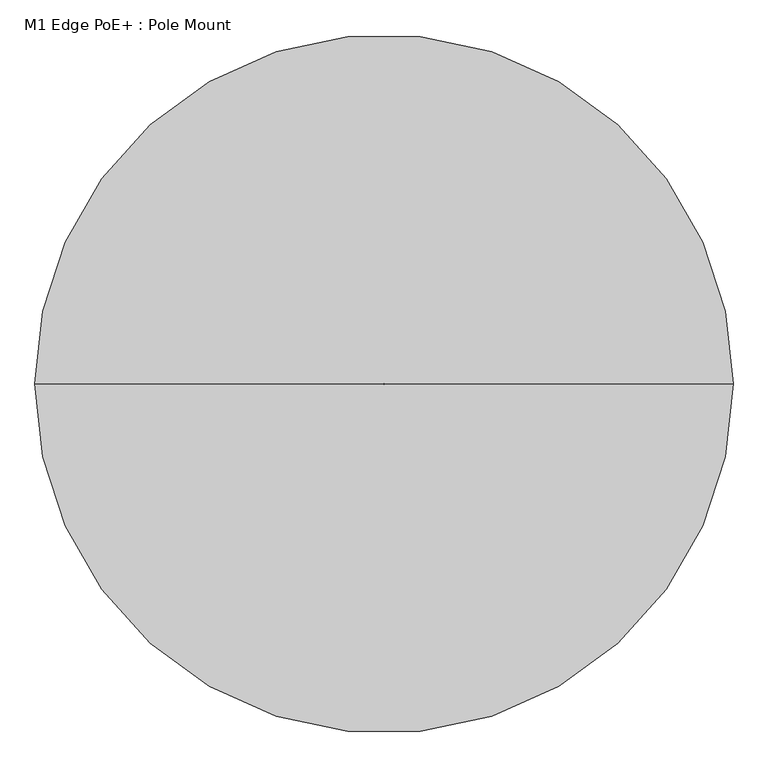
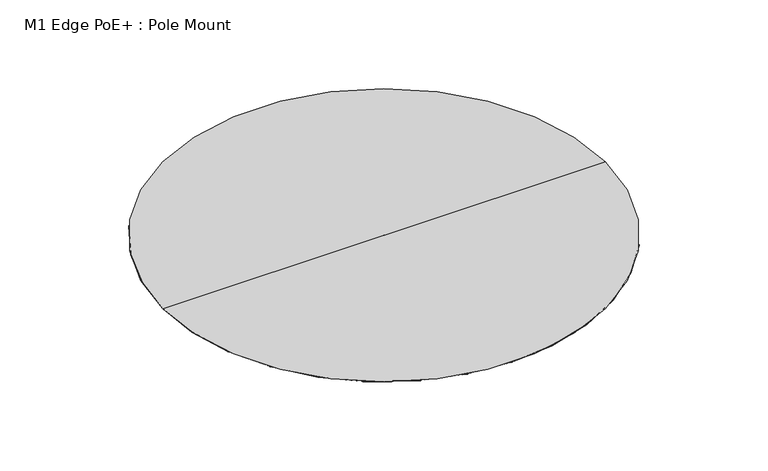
"""IFC4 building model written with IfcOpenShell, lengths in millimetres: proxy geometry, M1 Edge PoE+ : Pole Mount."""

from ifc_helpers import new_model, si_unit, frame, origin, place, context, project, spatial, polyline, circle_curve, outline, extrude, source, transform, mapped, element, save
from ifc_brep_helpers import plane_surface, cylinder_surface, revolved_surface, advanced_brep


def m1_edge_poe_pole_mount_3354eebb(model_context):
    return source(origin(), model_context, "Body", "SolidModel", [
        extrude(outline(polyline([(38.05, -3.175), (18.2643499, -29.4314445), (17.2785871, -29.4314445), (30.6046653, -6.35), (0.0, -6.35), (-30.6046653, -6.35), (-17.2785871, -29.4314445), (-18.2643499, -29.4314445), (-38.05, -3.175), (38.05, -3.175)])), frame((0.0, 0.0, 2917.49375), z_axis=(0.0, 0.0, 1.0), x_axis=(1.0, 0.0, 0.0)), (0.0, 0.0, 1.0), 100.0125),
        advanced_brep(
        [(0.0, 28.675, 3063.03192), (0.0, 117.675, 3063.03192), (0.0, 117.675, 3127.0834825), (0.0, 28.675, 3127.0834825), (0.0, 25.175, 3063.03192), (0.0, 121.175, 3063.03192), (0.0, 25.175, 3053.0108263), (0.0, 121.175, 3053.0108263), (0.0, 15.675, 3053.0108263), (0.0, 130.675, 3053.0108263), (0.0, 15.675, 2992.9834825), (0.0, 130.675, 2992.9834825), (0.0, 73.175, 2992.9834825), (0.0, 73.175, 3127.0834825)],
        [
            (0, 1, circle_curve(frame((0.0, 73.175, 3063.03192), z_axis=(0.0, 0.0, 1.0), x_axis=(0.0, 1.0, 0.0)), 44.5)),
            (1, 2),
            (2, 3, circle_curve(frame((0.0, 73.175, 3127.0834825), z_axis=(0.0, 0.0, -1.0), x_axis=(0.0, 1.0, 0.0)), 44.5)),
            (3, 0),
            (1, 0, circle_curve(frame((0.0, 73.175, 3063.03192), z_axis=(0.0, 0.0, 1.0), x_axis=(0.0, 1.0, 0.0)), 44.5)),
            (3, 2, circle_curve(frame((0.0, 73.175, 3127.0834825), z_axis=(0.0, 0.0, -1.0), x_axis=(0.0, 1.0, 0.0)), 44.5)),
            (4, 5, circle_curve(frame((0.0, 73.175, 3063.03192), z_axis=(0.0, 0.0, 1.0), x_axis=(0.0, 1.0, 0.0)), 48.0)),
            (5, 1),
            (0, 4),
            (5, 4, circle_curve(frame((0.0, 73.175, 3063.03192), z_axis=(0.0, 0.0, 1.0), x_axis=(0.0, 1.0, 0.0)), 48.0)),
            (6, 7, circle_curve(frame((0.0, 73.175, 3053.0108263), z_axis=(0.0, 0.0, 1.0), x_axis=(0.0, 1.0, 0.0)), 48.0)),
            (7, 5),
            (4, 6),
            (7, 6, circle_curve(frame((0.0, 73.175, 3053.0108263), z_axis=(0.0, 0.0, 1.0), x_axis=(0.0, 1.0, 0.0)), 48.0)),
            (8, 9, circle_curve(frame((0.0, 73.175, 3053.0108263), z_axis=(0.0, 0.0, 1.0), x_axis=(0.0, 1.0, 0.0)), 57.5)),
            (9, 7),
            (6, 8),
            (9, 8, circle_curve(frame((0.0, 73.175, 3053.0108263), z_axis=(0.0, 0.0, 1.0), x_axis=(0.0, 1.0, 0.0)), 57.5)),
            (10, 11, circle_curve(frame((0.0, 73.175, 2992.9834825), z_axis=(0.0, 0.0, 1.0), x_axis=(0.0, 1.0, 0.0)), 57.5)),
            (11, 9),
            (8, 10),
            (11, 10, circle_curve(frame((0.0, 73.175, 2992.9834825), z_axis=(0.0, 0.0, 1.0), x_axis=(0.0, 1.0, 0.0)), 57.5)),
            (12, 11),
            (10, 12),
            (2, 13),
            (13, 3),
        ],
        [
            cylinder_surface(frame((0.0, 73.175, 3394.9634398), z_axis=(0.0, 0.0, -1.0), x_axis=(0.0, 1.0, 0.0)), 44.5),
            plane_surface(frame((0.0, 73.175, 3063.03192), z_axis=(0.0, 0.0, 1.0), x_axis=(0.0, 1.0, 0.0))),
            cylinder_surface(frame((0.0, 73.175, 3394.9634398), z_axis=(0.0, 0.0, -1.0), x_axis=(0.0, 1.0, 0.0)), 48.0),
            plane_surface(frame((0.0, 73.175, 3053.0108263), z_axis=(0.0, 0.0, 1.0), x_axis=(0.0, 1.0, 0.0))),
            cylinder_surface(frame((0.0, 73.175, 3394.9634398), z_axis=(0.0, 0.0, -1.0), x_axis=(0.0, 1.0, 0.0)), 57.5),
            plane_surface(frame((0.0, 73.175, 2992.9834825), z_axis=(0.0, 0.0, -1.0), x_axis=(0.0, 1.0, 0.0))),
            plane_surface(frame((0.0, 73.175, 3127.0834825), z_axis=(0.0, 0.0, 1.0), x_axis=(0.0, 1.0, 0.0))),
        ],
        [
            (0, [[1, 2, 3, 4]]),
            (0, [[5, -4, 6, -2]]),
            (1, [[7, 8, -1, 9]]),
            (1, [[10, -9, -5, -8]]),
            (2, [[11, 12, -7, 13]]),
            (2, [[14, -13, -10, -12]]),
            (3, [[15, 16, -11, 17]]),
            (3, [[18, -17, -14, -16]]),
            (4, [[19, 20, -15, 21]]),
            (4, [[22, -21, -18, -20]]),
            (5, [[23, -19, 24]]),
            (5, [[-24, -22, -23]]),
            (6, [[-3, 25, 26]]),
            (6, [[-6, -26, -25]]),
        ],
    ),
        advanced_brep(
        [(70104.0, 73.175, 3091.60692), (-70104.0, 73.175, 3091.60692), (-46.2980768, 73.175, 3091.60692), (46.2980768, 73.175, 3091.60692), (70104.0, 73.175, 3011.8911911), (-70104.0, 73.175, 3011.8911911)],
        [
            (0, 1, circle_curve(frame((0.0, 73.175, 3091.60692), z_axis=(0.0, 0.0, 1.0), x_axis=(-1.0, 0.0, 0.0)), 70104.0)),
            (1, 2),
            (2, 3, circle_curve(frame((0.0, 73.175, 3091.60692), z_axis=(0.0, 0.0, -1.0), x_axis=(-1.0, 0.0, 0.0)), 46.2980768)),
            (3, 0),
            (1, 0, circle_curve(frame((0.0, 73.175, 3091.60692), z_axis=(0.0, 0.0, 1.0), x_axis=(-1.0, 0.0, 0.0)), 70104.0)),
            (3, 2, circle_curve(frame((0.0, 73.175, 3091.60692), z_axis=(0.0, 0.0, -1.0), x_axis=(-1.0, 0.0, 0.0)), 46.2980768)),
            (4, 5, circle_curve(frame((0.0, 73.175, 3011.8911911), z_axis=(0.0, 0.0, 1.0), x_axis=(-1.0, 0.0, 0.0)), 70104.0)),
            (5, 1),
            (0, 4),
            (5, 4, circle_curve(frame((0.0, 73.175, 3011.8911911), z_axis=(0.0, 0.0, 1.0), x_axis=(-1.0, 0.0, 0.0)), 70104.0)),
            (2, 5),
            (4, 3),
        ],
        [
            plane_surface(frame((0.0, 73.175, 3091.60692), z_axis=(0.0, 0.0, 1.0), x_axis=(-1.0, 0.0, 0.0))),
            cylinder_surface(frame((0.0, 73.175, 5435.4137144), z_axis=(0.0, 0.0, -1.0), x_axis=(-1.0, 0.0, 0.0)), 70104.0),
            revolved_surface(polyline([(-70104.0, 73.175, 3011.8911911), (-46.2980768, 73.175, 3091.60692)]), (0.0, 73.175, 5435.4137144), (0.0, 0.0, -1.0)),
        ],
        [
            (0, [[1, 2, 3, 4]]),
            (0, [[5, -4, 6, -2]]),
            (1, [[7, 8, -1, 9]]),
            (1, [[10, -9, -5, -8]]),
            (2, [[-3, 11, -7, 12]]),
            (2, [[-6, -12, -10, -11]]),
        ],
    ),
        extrude(outline(polyline([(70.0, 140.0), (70.0, 0.0), (-70.0, 0.0), (-70.0, 140.0), (70.0, 140.0)])), frame((0.0, 0.0, 2989.8084825), z_axis=(0.0, 0.0, 1.0), x_axis=(1.0, 0.0, 0.0)), (0.0, 0.0, 1.0), 3.175),
        extrude(outline(polyline([(47.7242188, 0.0), (47.7242188, -3.175), (-47.7242187, -3.175), (-47.7242187, 0.0), (47.7242188, 0.0)])), frame((0.0, 0.0, 2887.0), z_axis=(0.0, 0.0, 1.0), x_axis=(1.0, 0.0, 0.0)), (0.0, 0.0, 1.0), 161.0),
        extrude(outline(polyline([(2992.9834825, 70.0), (2992.9834825, -70.0), (2977.9259126, -70.0), (2977.9259126, -22.1620361), (2927.1259126, -22.1620361), (2927.1259126, 22.1620361), (2977.9259126, 22.1620361), (2977.9259126, 70.0), (2992.9834825, 70.0)])), frame((0.0, 0.0, 0.0), z_axis=(0.0, 1.0, 0.0), x_axis=(0.0, 0.0, 1.0)), (0.0, 0.0, 1.0), 101.6),
    ])


if __name__ == "__main__":
    model = new_model("IFC4")
    model_context = context("Model", 3, world=origin())
    ifc_project = project(units=[si_unit("LENGTHUNIT", "METRE", prefix="MILLI")], contexts=[model_context])
    site = spatial("IfcSite", under=ifc_project)
    building = spatial("IfcBuilding", under=site)
    placement = place(None, origin())
    m1_edge_poe_pole_mount_shape = m1_edge_poe_pole_mount_3354eebb(model_context)
    element("IfcBuildingElementProxy", 1, Name="M1 Edge PoE+ : Pole Mount", ObjectType="M1 Edge PoE+ : Pole Mount", at=placement, inside=building, context=model_context, shape_type="MappedRepresentation", body=[
        mapped(m1_edge_poe_pole_mount_shape, transform((0.0, 0.0, 0.0), x_axis=(1.0, 0.0, 0.0), y_axis=(0.0, 1.0, 0.0), z_axis=(0.0, 0.0, 1.0))),
    ])
    save(model, "model.ifc")
